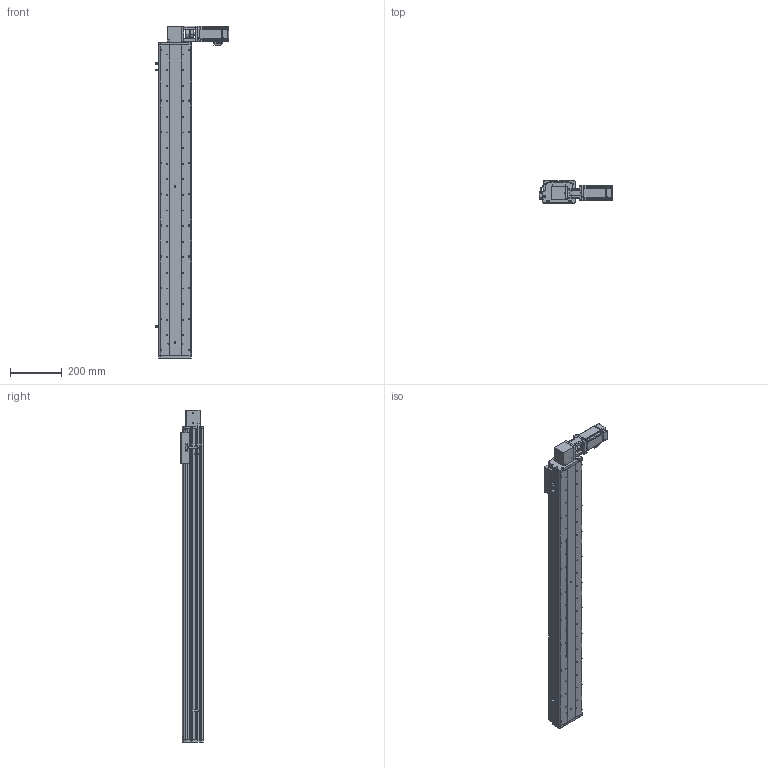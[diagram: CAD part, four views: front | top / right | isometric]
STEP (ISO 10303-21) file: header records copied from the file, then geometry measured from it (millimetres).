
FILE_DESCRIPTION (( 'STEP AP214' ), '1' );
FILE_NAME ('KSD125B-S1000-MRT-CM.STEP', '2017-10-21T07:03:22', ( '微软用户' ), ( '微软中国' ), 'SwSTEP 2.0', 'SolidWorks 2014', '' );
FILE_SCHEMA (( 'AUTOMOTIVE_DESIGN' ));
Length unit declared in the file: millimetre
Products named in the file (16): MHMD042G1CA_2_03; KSD125模组同步带-防撞垫2; CS-34X32-10X14; 100遵鎮湛假蚾啣1 ; 覜茼え68遵圉猾敕; U倰嫖萇假蚾璃; U倰嫖萇EEㄜSX672; KSD125模组同步带-防撞垫1; 100宽安装板同步带带电机座400W,86; 前端板-125宽模组同步带; 125模组同步带-尾端板1; KSD125模组同步带-滑动座1; KSD125B-S1000-MRT-CM; 100宽马达安装板同步带左; KSD125模组1000行程同步带-防尘盖; 125模组1000行程同步带-底板
Assembly tree (19 placements, depth 2):
  KSD125B-S1000-MRT-CM
    KSD125模组同步带-滑动座1
    125模组同步带-尾端板1
    前端板-125宽模组同步带
    100宽安装板同步带带电机座400W,86
    KSD125模组同步带-防撞垫1
    U倰嫖萇EEㄜSX672  x3
    U倰嫖萇假蚾璃  x3
    覜茼え68遵圉猾敕
    100遵鎮湛假蚾啣1 
    CS-34X32-10X14
    KSD125模组同步带-防撞垫2
    MHMD042G1CA_2_03
    125模组1000行程同步带-底板
    KSD125模组1000行程同步带-防尘盖
    100宽马达安装板同步带左
Bounding box: 282.7 x 86 x 1277 mm (x, y, z)
Volume: 3910160.8 mm3; surface area: 1287394.3 mm2
Topology: 18 solids, 21 shells, 1714 faces, 4918 edges, 3244 vertices
Faces by surface type: cylinder 905, plane 706, cone 81, bspline 22
Entity records: 60426 total; most frequent: CARTESIAN_POINT 12200, DIRECTION 8849, ORIENTED_EDGE 8356, EDGE_CURVE 4256, AXIS2_PLACEMENT_3D 3297, VERTEX_POINT 2836, LINE 2255, VECTOR 2255
